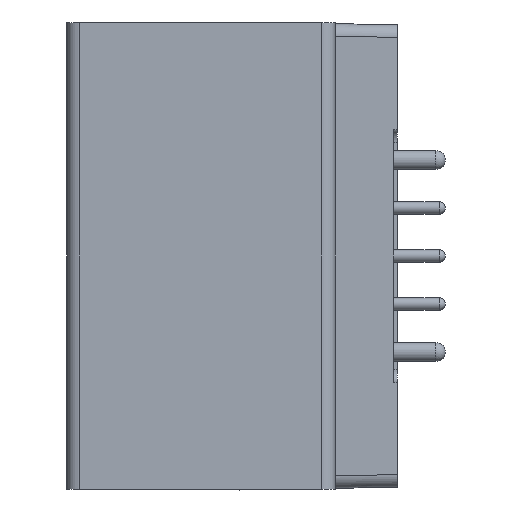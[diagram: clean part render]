
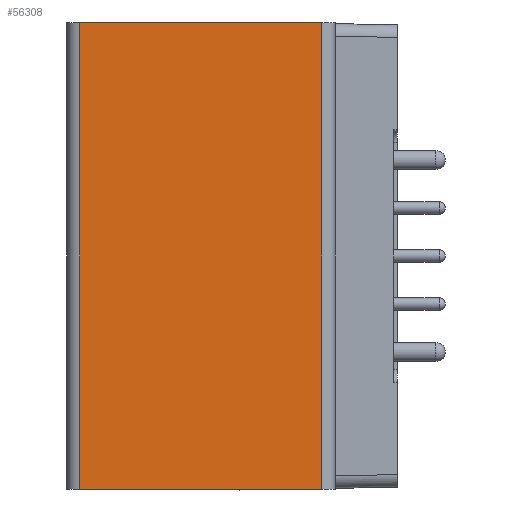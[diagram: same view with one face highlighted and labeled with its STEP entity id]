
A CAD part, left-side view. The second image highlights one B-rep face of the part: STEP entity #56308.
In plain terms, the highlighted planar face has unit normal (-1, 0, 0).
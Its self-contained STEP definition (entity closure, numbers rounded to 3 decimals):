
#2274 = DIRECTION ( 'NONE',  ( 0., 0., -1. ) ) ;
#3284 = DIRECTION ( 'NONE',  ( 1., 0., 0. ) ) ;
#3726 = VECTOR ( 'NONE', #59634, 1000. ) ;
#7525 = VECTOR ( 'NONE', #38404, 1000. ) ;
#9011 = CARTESIAN_POINT ( 'NONE',  ( -31.6, -7.55, 18.5 ) ) ;
#17973 = CARTESIAN_POINT ( 'NONE',  ( -31.6, -7.55, 18.5 ) ) ;
#21319 = EDGE_CURVE ( 'NONE', #56433, #43749, #31898, .T. ) ;
#25306 = CARTESIAN_POINT ( 'NONE',  ( -31.6, 11.65, -18.5 ) ) ;
#25335 = VECTOR ( 'NONE', #64211, 1000. ) ;
#26211 = CARTESIAN_POINT ( 'NONE',  ( -31.6, 11.65, -18.5 ) ) ;
#26886 = VECTOR ( 'NONE', #36945, 1000. ) ;
#27493 = EDGE_CURVE ( 'NONE', #58751, #43749, #32392, .T. ) ;
#31898 = LINE ( 'NONE', #26211, #26886 ) ;
#32392 = LINE ( 'NONE', #17973, #25335 ) ;
#32820 = CARTESIAN_POINT ( 'NONE',  ( -31.6, 11.65, 18.5 ) ) ;
#36945 = DIRECTION ( 'NONE',  ( 0., -1., 0. ) ) ;
#38404 = DIRECTION ( 'NONE',  ( 0., -1., 0. ) ) ;
#41069 = CARTESIAN_POINT ( 'NONE',  ( -31.6, -7.55, -18.5 ) ) ;
#42893 = CARTESIAN_POINT ( 'NONE',  ( -31.6, 11.65, 18.5 ) ) ;
#43466 = CARTESIAN_POINT ( 'NONE',  ( -31.6, 11.65, 18.5 ) ) ;
#43749 = VERTEX_POINT ( 'NONE', #41069 ) ;
#45365 = EDGE_CURVE ( 'NONE', #45554, #58751, #48499, .T. ) ;
#45554 = VERTEX_POINT ( 'NONE', #48419 ) ;
#48278 = LINE ( 'NONE', #32820, #3726 ) ;
#48419 = CARTESIAN_POINT ( 'NONE',  ( -31.6, 11.65, 18.5 ) ) ;
#48499 = LINE ( 'NONE', #43466, #7525 ) ;
#49966 = AXIS2_PLACEMENT_3D ( 'NONE', #42893, #3284, #2274 ) ;
#53589 = FACE_OUTER_BOUND ( 'NONE', #55252, .T. ) ;
#55252 = EDGE_LOOP ( 'NONE', ( #61954, #58643, #61142, #63589 ) ) ;
#56308 = ADVANCED_FACE ( 'NONE', ( #53589 ), #63614, .F. ) ;
#56433 = VERTEX_POINT ( 'NONE', #25306 ) ;
#58643 = ORIENTED_EDGE ( 'NONE', *, *, #27493, .F. ) ;
#58751 = VERTEX_POINT ( 'NONE', #9011 ) ;
#59447 = EDGE_CURVE ( 'NONE', #45554, #56433, #48278, .T. ) ;
#59634 = DIRECTION ( 'NONE',  ( 0., 0., -1. ) ) ;
#61142 = ORIENTED_EDGE ( 'NONE', *, *, #45365, .F. ) ;
#61954 = ORIENTED_EDGE ( 'NONE', *, *, #21319, .T. ) ;
#63589 = ORIENTED_EDGE ( 'NONE', *, *, #59447, .T. ) ;
#63614 = PLANE ( 'NONE',  #49966 ) ;
#64211 = DIRECTION ( 'NONE',  ( 0., 0., -1. ) ) ;
